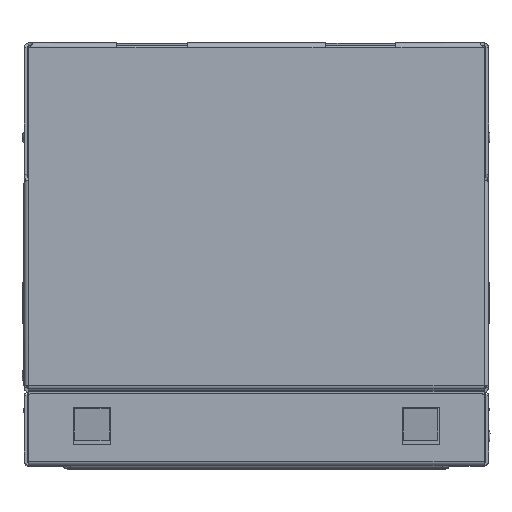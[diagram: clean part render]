
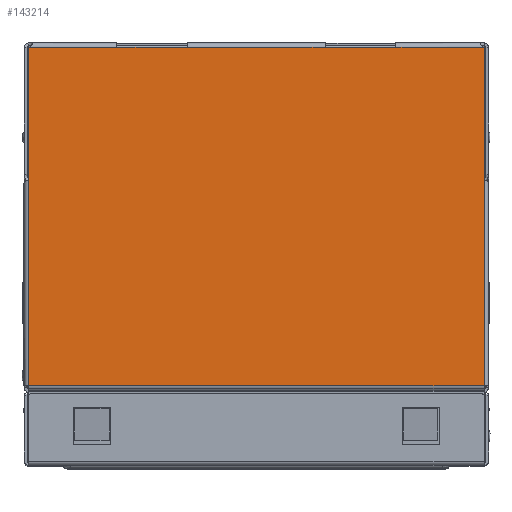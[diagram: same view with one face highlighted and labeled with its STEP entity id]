
A CAD part, top view. The second image highlights one B-rep face of the part: STEP entity #143214.
In plain terms, the highlighted planar face has unit normal (0, 0, 1) as drawn and (0, 1, 0) by its records, which use the part's own axes.
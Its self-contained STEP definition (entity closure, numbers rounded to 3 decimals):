
#132059=CARTESIAN_POINT('',(36.225,-0.05,
-0.355));
#132085=DIRECTION('',(-1.,0.,0.));
#132086=VECTOR('',#132085,5.905);
#132087=CARTESIAN_POINT('',(11.59,-0.05,
-0.355));
#132088=LINE('',#132087,#132086);
#132089=DIRECTION('',(0.,0.,-1.));
#132090=VECTOR('',#132089,8.845);
#132091=CARTESIAN_POINT('',(5.685,-0.05,
-0.355));
#132092=LINE('',#132091,#132090);
#132093=DIRECTION('',(-0.707,0.,
-0.707));
#132094=VECTOR('',#132093,0.028);
#132095=CARTESIAN_POINT('',(5.685,-0.05,
-9.2));
#132096=LINE('',#132095,#132094);
#132097=DIRECTION('',(1.,0.,0.));
#132098=VECTOR('',#132097,0.02);
#132099=CARTESIAN_POINT('',(5.665,-0.05,-23.04));
#132100=LINE('',#132099,#132098);
#132101=DIRECTION('',(1.,0.,0.));
#132102=VECTOR('',#132101,0.02);
#132103=CARTESIAN_POINT('',(36.225,-0.05,-23.04));
#132104=LINE('',#132103,#132102);
#132105=DIRECTION('',(-0.707,0.,
0.707));
#132106=VECTOR('',#132105,0.028);
#132107=CARTESIAN_POINT('',(36.245,-0.05,-9.22));
#132108=LINE('',#132107,#132106);
#132109=DIRECTION('',(0.,0.,1.));
#132110=VECTOR('',#132109,8.845);
#132111=CARTESIAN_POINT('',(36.225,-0.05,
-9.2));
#132112=LINE('',#132111,#132110);
#132113=DIRECTION('',(-1.,0.,0.));
#132114=VECTOR('',#132113,5.905);
#132115=CARTESIAN_POINT('',(36.225,-0.05,
-0.355));
#132116=LINE('',#132115,#132114);
#136205=DIRECTION('',(-1.,0.,0.));
#136206=VECTOR('',#136205,30.54);
#136207=CARTESIAN_POINT('',(36.225,-0.05,-23.04));
#136208=LINE('',#136207,#136206);
#136374=DIRECTION('',(0.,0.,1.));
#136375=VECTOR('',#136374,13.82);
#136376=CARTESIAN_POINT('',(5.665,-0.05,-23.04));
#136377=LINE('',#136376,#136375);
#136567=DIRECTION('',(0.,0.,-1.));
#136568=VECTOR('',#136567,13.82);
#136569=CARTESIAN_POINT('',(36.245,-0.05,-9.22));
#136570=LINE('',#136569,#136568);
#136731=DIRECTION('',(1.,0.,0.));
#136732=VECTOR('',#136731,4.76);
#136733=CARTESIAN_POINT('',(11.59,-0.05,
-0.355));
#136734=LINE('',#136733,#136732);
#136771=DIRECTION('',(1.,0.,0.));
#136772=VECTOR('',#136771,9.21);
#136773=CARTESIAN_POINT('',(16.35,-0.05,-0.355));
#136774=LINE('',#136773,#136772);
#136779=DIRECTION('',(1.,0.,0.));
#136780=VECTOR('',#136779,4.76);
#136781=CARTESIAN_POINT('',(25.56,-0.05,-0.355));
#136782=LINE('',#136781,#136780);
#139840=CARTESIAN_POINT('',(30.32,-0.05,-0.355));
#139841=VERTEX_POINT('',#139840);
#139843=VERTEX_POINT('',#132059);
#139873=CARTESIAN_POINT('',(11.59,-0.05,
-0.355));
#139874=CARTESIAN_POINT('',(5.685,-0.05,
-0.355));
#139875=VERTEX_POINT('',#139873);
#139876=VERTEX_POINT('',#139874);
#139877=CARTESIAN_POINT('',(5.685,-0.05,
-9.2));
#139878=VERTEX_POINT('',#139877);
#139879=CARTESIAN_POINT('',(5.665,-0.05,-9.22));
#139880=VERTEX_POINT('',#139879);
#139881=CARTESIAN_POINT('',(5.665,-0.05,-23.04));
#139882=VERTEX_POINT('',#139881);
#139883=CARTESIAN_POINT('',(5.685,-0.05,-23.04));
#139884=VERTEX_POINT('',#139883);
#139885=CARTESIAN_POINT('',(36.225,-0.05,-23.04));
#139886=VERTEX_POINT('',#139885);
#139887=CARTESIAN_POINT('',(36.245,-0.05,-23.04));
#139888=VERTEX_POINT('',#139887);
#139889=CARTESIAN_POINT('',(36.245,-0.05,-9.22));
#139890=VERTEX_POINT('',#139889);
#139891=CARTESIAN_POINT('',(36.225,-0.05,
-9.2));
#139892=VERTEX_POINT('',#139891);
#139893=CARTESIAN_POINT('',(25.56,-0.05,-0.355));
#139894=VERTEX_POINT('',#139893);
#139895=CARTESIAN_POINT('',(16.35,-0.05,-0.355));
#139896=VERTEX_POINT('',#139895);
#143180=CARTESIAN_POINT('',(5.635,-0.05,-23.04));
#143181=DIRECTION('',(0.,1.,0.));
#143182=DIRECTION('',(0.,0.,1.));
#143183=AXIS2_PLACEMENT_3D('',#143180,#143181,#143182);
#143184=PLANE('',#143183);
#143186=ORIENTED_EDGE('',*,*,#143185,.T.);
#143188=ORIENTED_EDGE('',*,*,#143187,.T.);
#143190=ORIENTED_EDGE('',*,*,#143189,.T.);
#143192=ORIENTED_EDGE('',*,*,#143191,.F.);
#143194=ORIENTED_EDGE('',*,*,#143193,.T.);
#143196=ORIENTED_EDGE('',*,*,#143195,.F.);
#143198=ORIENTED_EDGE('',*,*,#143197,.T.);
#143200=ORIENTED_EDGE('',*,*,#143199,.F.);
#143202=ORIENTED_EDGE('',*,*,#143201,.T.);
#143204=ORIENTED_EDGE('',*,*,#143203,.T.);
#143205=ORIENTED_EDGE('',*,*,#143172,.T.);
#143207=ORIENTED_EDGE('',*,*,#143206,.F.);
#143209=ORIENTED_EDGE('',*,*,#143208,.F.);
#143211=ORIENTED_EDGE('',*,*,#143210,.F.);
#143212=EDGE_LOOP('',(#143186,#143188,#143190,#143192,#143194,#143196,#143198,
#143200,#143202,#143204,#143205,#143207,#143209,#143211));
#143213=FACE_OUTER_BOUND('',#143212,.F.);
#143214=ADVANCED_FACE('',(#143213),#143184,.T.);
#143172=EDGE_CURVE('',#139843,#139841,#132116,.T.);
#143185=EDGE_CURVE('',#139875,#139876,#132088,.T.);
#143187=EDGE_CURVE('',#139876,#139878,#132092,.T.);
#143189=EDGE_CURVE('',#139878,#139880,#132096,.T.);
#143191=EDGE_CURVE('',#139882,#139880,#136377,.T.);
#143193=EDGE_CURVE('',#139882,#139884,#132100,.T.);
#143195=EDGE_CURVE('',#139886,#139884,#136208,.T.);
#143197=EDGE_CURVE('',#139886,#139888,#132104,.T.);
#143199=EDGE_CURVE('',#139890,#139888,#136570,.T.);
#143201=EDGE_CURVE('',#139890,#139892,#132108,.T.);
#143203=EDGE_CURVE('',#139892,#139843,#132112,.T.);
#143206=EDGE_CURVE('',#139894,#139841,#136782,.T.);
#143208=EDGE_CURVE('',#139896,#139894,#136774,.T.);
#143210=EDGE_CURVE('',#139875,#139896,#136734,.T.);
